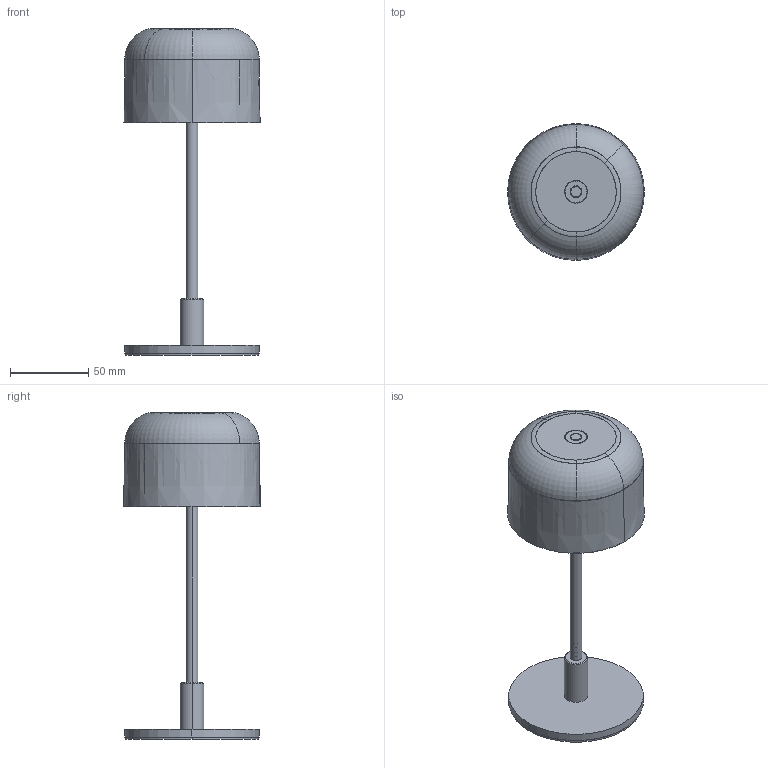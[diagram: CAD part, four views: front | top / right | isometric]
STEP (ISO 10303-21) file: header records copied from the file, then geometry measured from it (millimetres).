
FILE_DESCRIPTION(('CATIA V5 STEP Exchange'),'2;1');
FILE_NAME('E:\GaaPro\luo\5.待开发项目\3.台灯\GT-021\小号\GT-021.stp','2023-03-04T06:57:09+00:00',('none'),('none'),'CATIA Version 5-6 Release 2018','CATIA V5 STEP AP203','none');
FILE_SCHEMA(('CONFIG_CONTROL_DESIGN'));
Length unit declared in the file: millimetre
Products named in the file (3): 装配图; 触屏开关; PCBA
Assembly tree (23 placements, depth 3):
  装配图
    #57
    #5797
    #6234
    #8988
    #11651
    触屏开关
      #12242
      #12579
    #14174
    PCBA
      #14422
      #16283
      #23407
    #27818
    #27987
    #29464
    #29568
    #31750
    #33871
    #38853  x3
    #41793
Bounding box: 87.41 x 87.41 x 208.95 mm (x, y, z)
Volume: 227919.5 mm3; surface area: 162658.5 mm2
Topology: 49 solids, 50 shells, 1701 faces, 4064 edges, 2495 vertices
Faces by surface type: cone 619, plane 575, cylinder 398, torus 66, extrusion 16, bspline 16, sphere 11
Entity records: 43614 total; most frequent: CARTESIAN_POINT 12136, ORIENTED_EDGE 7036, DIRECTION 5090, EDGE_CURVE 3520, AXIS2_PLACEMENT_3D 2197, VERTEX_POINT 2157, VECTOR 1954, LINE 1938
